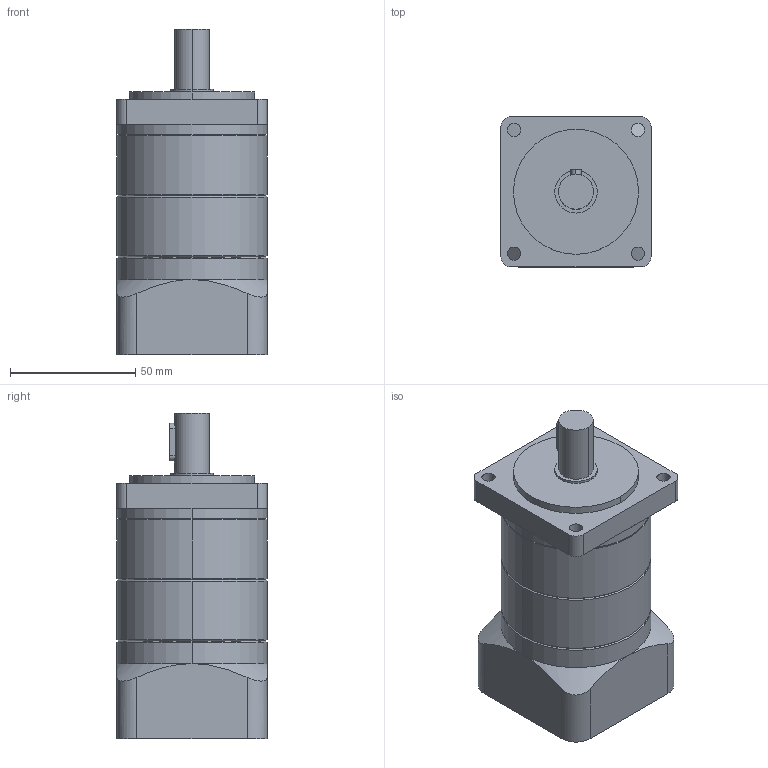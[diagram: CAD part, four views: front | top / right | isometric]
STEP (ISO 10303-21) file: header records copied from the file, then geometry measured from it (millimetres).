
FILE_DESCRIPTION (( 'STEP AP203' ), '1' );
FILE_NAME ('60-L2.STEP', '2011-06-13T09:37:44', ( 'kao' ), ( '' ), 'SwSTEP 2.0', 'SolidWorks 2009', '' );
FILE_SCHEMA (( 'CONFIG_CONTROL_DESIGN' ));
Length unit declared in the file: millimetre
Products named in the file (1): 60-L2
Bounding box: 60 x 60 x 130 mm (x, y, z)
Volume: 289337.3 mm3; surface area: 36893.6 mm2
Topology: 1 solids, 1 shells, 92 faces, 207 edges, 129 vertices
Faces by surface type: cylinder 49, plane 29, cone 14
Entity records: 2889 total; most frequent: CARTESIAN_POINT 681, DIRECTION 478, ORIENTED_EDGE 414, EDGE_CURVE 207, AXIS2_PLACEMENT_3D 194, VERTEX_POINT 129, EDGE_LOOP 112, CIRCLE 101
